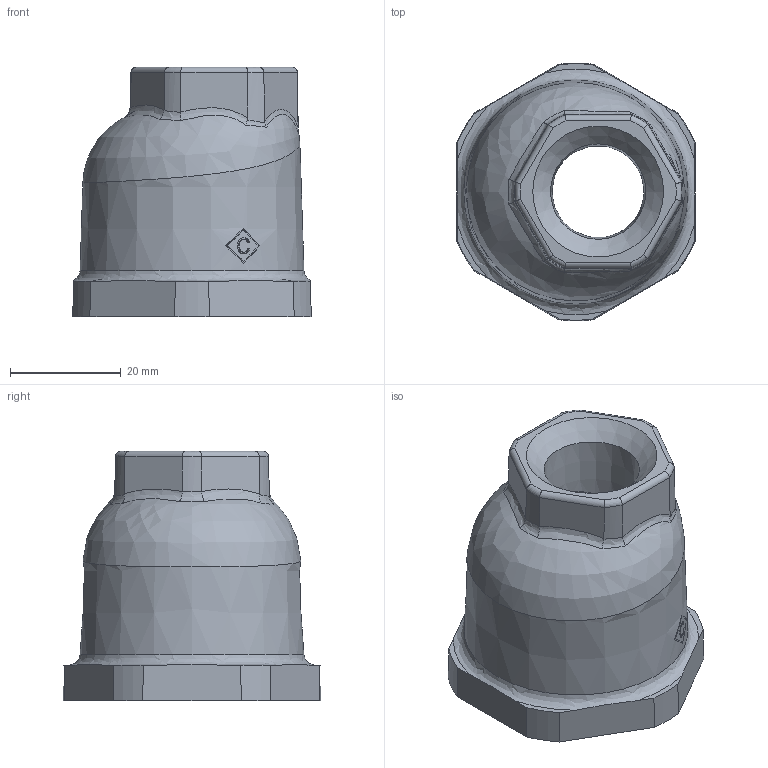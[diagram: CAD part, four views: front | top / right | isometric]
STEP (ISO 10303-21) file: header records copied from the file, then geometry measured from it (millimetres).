
FILE_DESCRIPTION((''),'2;1');
FILE_NAME('P:\Fastrack\53909_CRANE\Crane\Fig.180 Eccentric Socket\New 1.00 inch\180-1.00x0.50.stp','2009-09-17T08:41:31',('btaylor'),(''),'Autodesk Inventor 2008','Autodesk Inventor 2008','');
FILE_SCHEMA(('AUTOMOTIVE_DESIGN { 1 0 10303 214 1 1 1 1 }'));
Length unit declared in the file: millimetre
Products named in the file (1): 180-1.00x0.50
Bounding box: 43 x 46.45 x 45 mm (x, y, z)
Volume: 27500.7 mm3; surface area: 10435.7 mm2
Topology: 1 solids, 1 shells, 86 faces, 244 edges, 163 vertices
Faces by surface type: plane 31, bspline 23, cone 20, torus 6, cylinder 6
Entity records: 4722 total; most frequent: CARTESIAN_POINT 2770, ORIENTED_EDGE 466, DIRECTION 294, EDGE_CURVE 233, VERTEX_POINT 159, AXIS2_PLACEMENT_3D 123, B_SPLINE_CURVE_WITH_KNOTS 115, EDGE_LOOP 98
